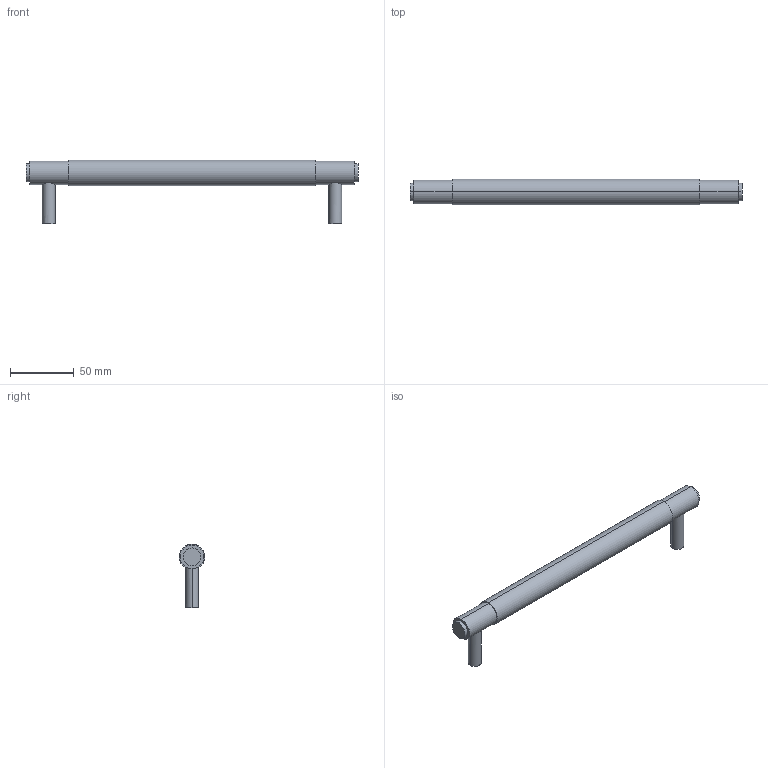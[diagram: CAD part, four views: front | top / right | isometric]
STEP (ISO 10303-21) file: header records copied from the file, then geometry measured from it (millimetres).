
FILE_DESCRIPTION (( 'STEP AP203' ), '1' );
FILE_NAME ('Pull Bar 200, 300, 400, 800 Configurations.STEP', '2016-10-12T14:00:51', ( '' ), ( '' ), 'SwSTEP 2.0', 'SolidWorks 2014', '' );
FILE_SCHEMA (( 'CONFIG_CONTROL_DESIGN' ));
Length unit declared in the file: millimetre
Products named in the file (1): Pull Bar 200, 300, 400, 800 Configurations
Bounding box: 260 x 20 x 50 mm (x, y, z)
Volume: 82718.2 mm3; surface area: 18523.9 mm2
Topology: 1 solids, 1 shells, 22 faces, 44 edges, 28 vertices
Faces by surface type: cylinder 14, plane 8
Entity records: 797 total; most frequent: CARTESIAN_POINT 243, DIRECTION 110, ORIENTED_EDGE 88, AXIS2_PLACEMENT_3D 47, EDGE_CURVE 44, VERTEX_POINT 28, EDGE_LOOP 26, CIRCLE 24
